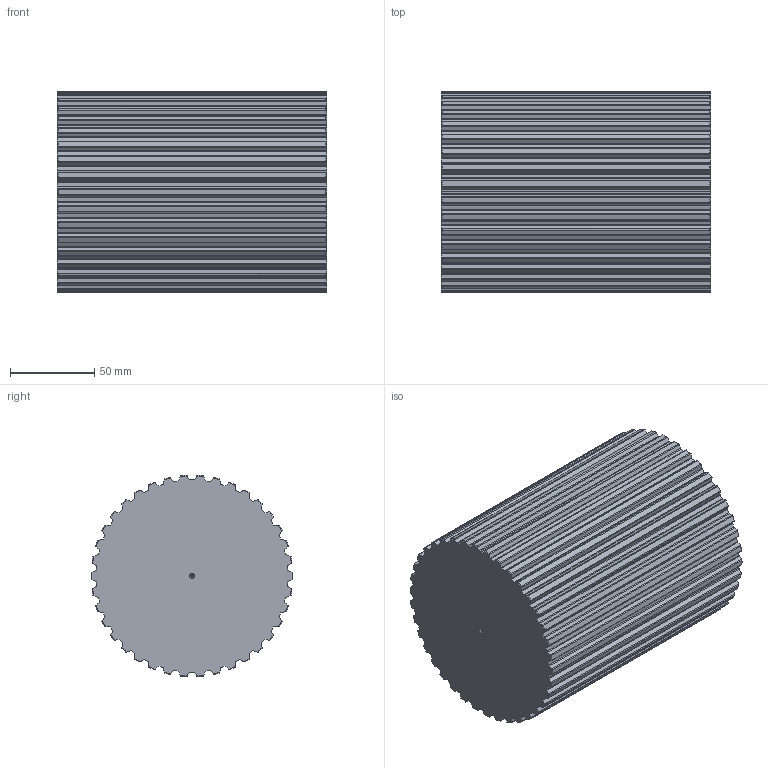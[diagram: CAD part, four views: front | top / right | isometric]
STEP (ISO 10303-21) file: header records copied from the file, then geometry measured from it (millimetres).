
FILE_DESCRIPTION(('STEP AP214'),'1');
FILE_NAME('bart_38.stp','2018-05-07T08:15:28',('TraceParts'),('TraceParts S.A.'),'Spatial InterOp 3D',' ',' ');
FILE_SCHEMA(('automotive_design'));
Length unit declared in the file: millimetre
Products named in the file (1): bart_38
Bounding box: 160 x 119.95 x 119.75 mm (x, y, z)
Volume: 1727568.1 mm3; surface area: 99739.7 mm2
Topology: 1 solids, 1 shells, 400 faces, 1186 edges, 786 vertices
Faces by surface type: cylinder 234, cone 88, plane 78
Entity records: 14389 total; most frequent: CARTESIAN_POINT 4041, ORIENTED_EDGE 2364, DIRECTION 2084, EDGE_CURVE 1182, AXIS2_PLACEMENT_3D 805, VERTEX_POINT 786, LINE 474, VECTOR 474
